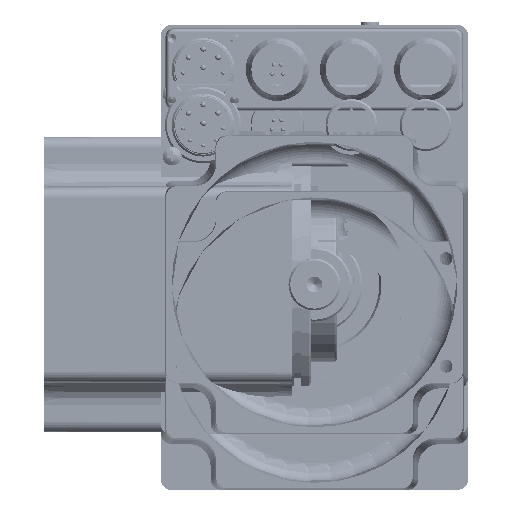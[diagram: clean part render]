
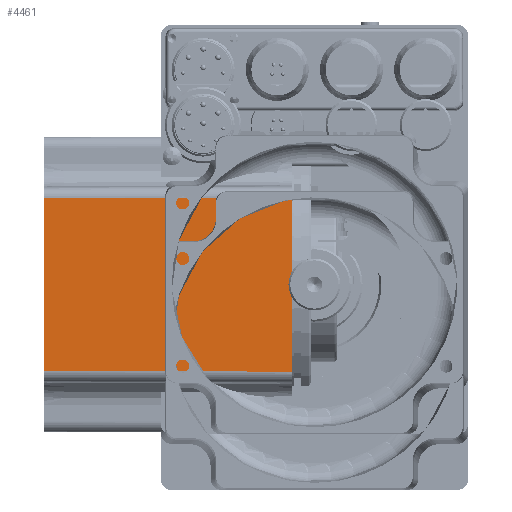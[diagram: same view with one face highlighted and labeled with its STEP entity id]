
A CAD part, front view. The second image highlights one B-rep face of the part: STEP entity #4461.
In plain terms, the highlighted planar face has unit normal (-0.003, -1, 0).
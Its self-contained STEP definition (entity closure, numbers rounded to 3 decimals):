
#4461 = ADVANCED_FACE( '', ( #9493 ), #9494, .T. );
#9493 = FACE_OUTER_BOUND( '', #23431, .T. );
#9494 = PLANE( '', #23432 );
#23431 = EDGE_LOOP( '', ( #34890, #34891, #34892, #34893 ) );
#23432 = AXIS2_PLACEMENT_3D( '', #34894, #34895, #34896 );
#34890 = ORIENTED_EDGE( '', *, *, #39888, .T. );
#34891 = ORIENTED_EDGE( '', *, *, #40151, .T. );
#34892 = ORIENTED_EDGE( '', *, *, #39413, .T. );
#34893 = ORIENTED_EDGE( '', *, *, #39205, .T. );
#34894 = CARTESIAN_POINT( '', ( -5., -40., 0. ) );
#34895 = DIRECTION( '', ( -0.003, -1., 0. ) );
#34896 = DIRECTION( '', ( 1., -0.003, 0. ) );
#39205 = EDGE_CURVE( '', #44708, #44706, #44709, .T. );
#39413 = EDGE_CURVE( '', #45046, #44708, #45047, .T. );
#39888 = EDGE_CURVE( '', #44706, #45775, #45777, .T. );
#40151 = EDGE_CURVE( '', #45775, #45046, #46170, .T. );
#44706 = VERTEX_POINT( '', #58646 );
#44708 = VERTEX_POINT( '', #58648 );
#44709 = LINE( '', #58649, #58650 );
#45046 = VERTEX_POINT( '', #59162 );
#45047 = LINE( '', #59163, #59164 );
#45775 = VERTEX_POINT( '', #60555 );
#45777 = LINE( '', #60557, #60558 );
#46170 = LINE( '', #61202, #61203 );
#58646 = CARTESIAN_POINT( '', ( -73., -39.802, -23.302 ) );
#58648 = CARTESIAN_POINT( '', ( -73., -39.802, 23.302 ) );
#58649 = CARTESIAN_POINT( '', ( -73., -39.802, 0. ) );
#58650 = VECTOR( '', #67696, 1000. );
#59162 = CARTESIAN_POINT( '', ( -6., -39.997, 23.497 ) );
#59163 = CARTESIAN_POINT( '', ( -98.991, -39.727, 23.227 ) );
#59164 = VECTOR( '', #67992, 1000. );
#60555 = CARTESIAN_POINT( '', ( -6., -39.997, -23.497 ) );
#60557 = CARTESIAN_POINT( '', ( -4.991, -40., -23.5 ) );
#60558 = VECTOR( '', #68619, 1000. );
#61202 = CARTESIAN_POINT( '', ( -6., -39.997, 0. ) );
#61203 = VECTOR( '', #68986, 1000. );
#67696 = DIRECTION( '', ( 0., 0., -1. ) );
#67992 = DIRECTION( '', ( -1., 0.003, -0.003 ) );
#68619 = DIRECTION( '', ( 1., -0.003, -0.003 ) );
#68986 = DIRECTION( '', ( 0., 0., 1. ) );
